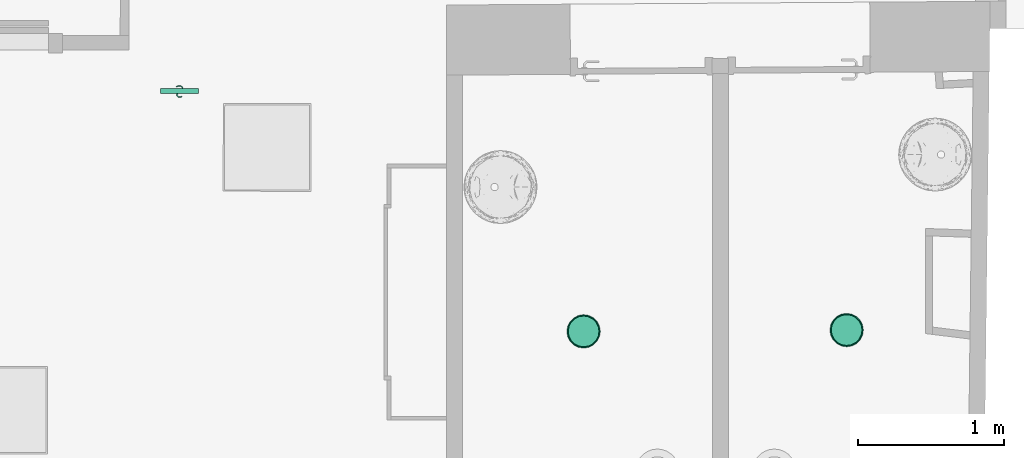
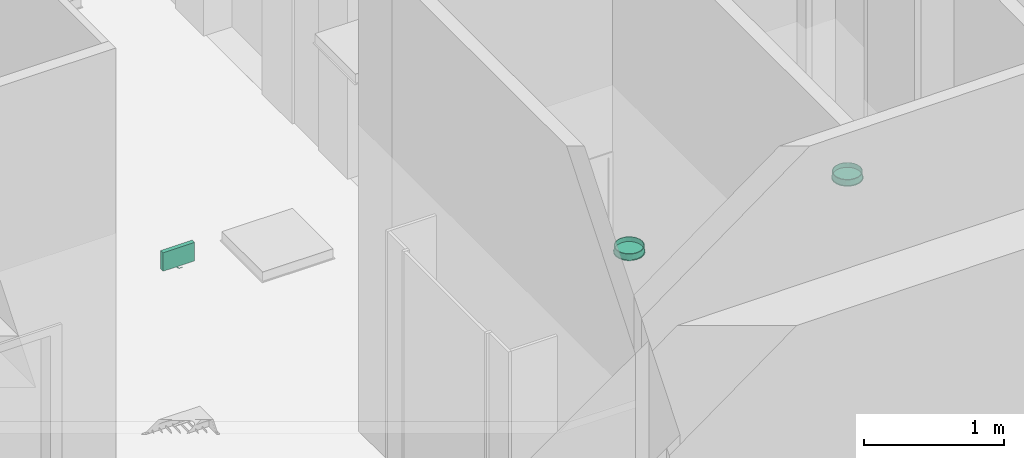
# One storey, part 73 of 128: 3 flow terminals.
"""IFC2X3 building model written with IfcOpenShell, lengths in metres."""

import ifcopenshell
import ifcopenshell.guid

model = None  # the IFC model being written
_history = None  # IfcOwnerHistory: only IFC2X3 demands one
_inside = {}  # id of a spatial element -> (the spatial element, [elements in it])
_under = {}  # id of a project, library or spatial element -> (it, [spatial elements below it])
_declared = {}  # id of a project -> (the project, [libraries it declares])
_typed = {}  # id of a type object -> (the type object, [elements of that type])
_made_of = {}  # id of a material, layer set ... -> (it, [elements and type objects made of it])


def new_model(schema):
    """Start an empty IFC model of exactly this schema.

    Asked for "IFC4X3", IfcOpenShell would pick the latest addendum, in which some entities
    have other attributes; the version numbers below select the first issue.
    IFC2X3 requires an IfcOwnerHistory on every rooted entity: one is made here for all.
    """
    global model, _history
    if schema == "IFC4X3":
        model = ifcopenshell.file(schema_version=(4, 3, 0, 0))
    else:
        model = ifcopenshell.file(schema=schema)
    _inside.clear()
    _under.clear()
    _declared.clear()
    _typed.clear()
    _made_of.clear()
    _history = None
    if model.schema == "IFC2X3":
        org = make("IfcOrganization", Name="unknown")
        user = make(
            "IfcPersonAndOrganization",
            ThePerson=make("IfcPerson", FamilyName="unknown"),
            TheOrganization=org,
        )
        app = make(
            "IfcApplication",
            ApplicationDeveloper=org,
            Version="unknown",
            ApplicationFullName="unknown",
            ApplicationIdentifier="unknown",
        )
        _history = make(
            "IfcOwnerHistory",
            OwningUser=user,
            OwningApplication=app,
            ChangeAction="ADDED",
            CreationDate=0,
        )
    return model


def make(cls, **values):
    """One entity of the class cls with the attributes given. An attribute that is None is left unset."""
    return model.create_entity(
        cls, **{name: value for name, value in values.items() if value is not None}
    )


def entity(cls, *values):
    """Any entity or typed value of the class cls, its attributes in the order of the schema. None: left unset."""
    e = model.create_entity(cls)
    for i, value in enumerate(values):
        if value is not None:
            e[i] = value
    return e


def rooted(cls, **values):
    """An entity with a GlobalId (a new one), such as an element, a storey or a relation."""
    return make(cls, GlobalId=ifcopenshell.guid.new(), OwnerHistory=_history, **values)


def si_unit(unit_type, name, prefix=None):
    """IfcSIUnit, for example si_unit("LENGTHUNIT", "METRE", prefix="MILLI")."""
    return make("IfcSIUnit", UnitType=unit_type, Prefix=prefix, Name=name)


def converted_unit(unit_type, name, factor, base, dimensions=None, offset=None):
    """IfcConversionBasedUnit, such as the inch: factor (a typed value) times the base unit."""
    return make(
        "IfcConversionBasedUnit"
        if offset is None
        else "IfcConversionBasedUnitWithOffset",
        ConversionOffset=offset,
        Dimensions=None
        if dimensions is None
        else entity("IfcDimensionalExponents", *dimensions),
        UnitType=unit_type,
        Name=name,
        ConversionFactor=make(
            "IfcMeasureWithUnit", ValueComponent=factor, UnitComponent=base
        ),
    )


def derived_unit(unit_type, elements):
    """IfcDerivedUnit: a product of units, each with its exponent."""
    return make(
        "IfcDerivedUnit",
        Elements=[
            make("IfcDerivedUnitElement", Unit=unit, Exponent=power)
            for unit, power in elements
        ],
        UnitType=unit_type,
    )


def assignment(units):
    """IfcUnitAssignment: the units of a project."""
    return None if units is None else make("IfcUnitAssignment", Units=units)


def point(xyz):
    """IfcCartesianPoint."""
    return None if xyz is None else make("IfcCartesianPoint", Coordinates=xyz)


def direction(xyz):
    """IfcDirection."""
    return None if xyz is None else make("IfcDirection", DirectionRatios=xyz)


def frame(location, z_axis=None, x_axis=None):
    """IfcAxis2Placement3D, a coordinate frame: its origin and axes. An axis left out is left unset."""
    return make(
        "IfcAxis2Placement3D",
        Location=point(location),
        Axis=direction(z_axis),
        RefDirection=direction(x_axis),
    )


def origin():
    """The frame at (0, 0, 0) with its axes left unset."""
    return frame((0.0, 0.0, 0.0))


def place(relative_to, where):
    """IfcLocalPlacement: puts the frame where relative to a parent placement (None: the world)."""
    return make(
        "IfcLocalPlacement", PlacementRelTo=relative_to, RelativePlacement=where
    )


def context(
    kind, dimensions, precision=None, world=None, true_north=None, identifier=None
):
    """IfcGeometricRepresentationContext, for example the 3D "Model" context."""
    return make(
        "IfcGeometricRepresentationContext",
        ContextIdentifier=identifier,
        ContextType=kind,
        CoordinateSpaceDimension=dimensions,
        Precision=precision,
        WorldCoordinateSystem=world,
        TrueNorth=true_north,
    )


def subcontext(parent, identifier, kind, view, scale=None):
    """IfcGeometricRepresentationSubContext, for example "Body" below "Model"."""
    return make(
        "IfcGeometricRepresentationSubContext",
        ContextIdentifier=identifier,
        ContextType=kind,
        ParentContext=parent,
        TargetScale=scale,
        TargetView=view,
    )


def project(units=None, contexts=None):
    """IfcProject with its units and contexts."""
    return rooted(
        "IfcProject",
        Name="project",
        RepresentationContexts=contexts,
        UnitsInContext=assignment(units),
    )


def spatial(cls, under=None, at=None, **own):
    """A site, building, storey or space (cls), placed at a placement, below another one or the project."""
    s = rooted(cls, ObjectPlacement=at, **own)
    if under is not None:
        _under.setdefault(under.id(), (under, []))[1].append(s)
    return s


def faces_of(points, faces, orient=None, outer=None):
    """IfcFace entities. A face is a list of loops; a loop is a list of indices into points, from 0.

    orient and outer hold one flag for each loop. By default every Orientation is true, the
    first loop of a face is its IfcFaceOuterBound and the others are IfcFaceBound.
    """
    made = []
    for i, loops in enumerate(faces):
        bounds = []
        for j, loop in enumerate(loops):
            is_outer = j == 0 if outer is None else outer[i][j]
            bounds.append(
                make(
                    "IfcFaceOuterBound" if is_outer else "IfcFaceBound",
                    Bound=make("IfcPolyLoop", Polygon=[points[k] for k in loop]),
                    Orientation=True if orient is None else orient[i][j],
                )
            )
        made.append(make("IfcFace", Bounds=bounds))
    return made


def face_set(faces, orient=None, outer=None):
    """The faces of one IfcConnectedFaceSet. surface_model builds it on its shared points."""
    return ("IfcConnectedFaceSet", faces, orient, outer)


def faceted_brep(points, faces, orient=None, outer=None, voids=None):
    """IfcFacetedBrep: a solid bounded by flat faces; with voids (closed shells), ...WithVoids."""
    shared = [point(p) for p in points]
    hull = make("IfcClosedShell", CfsFaces=faces_of(shared, faces, orient, outer))
    if voids is None:
        return make("IfcFacetedBrep", Outer=hull)
    return make(
        "IfcFacetedBrepWithVoids",
        Outer=hull,
        Voids=[
            make(cls, CfsFaces=faces_of(shared, fs, o, b)) for cls, fs, o, b in voids
        ],
    )


def surface_model(cls, points, shells):
    """IfcFaceBasedSurfaceModel or IfcShellBasedSurfaceModel (cls): surfaces that need not close."""
    shared = [point(p) for p in points]
    made = [make(c, CfsFaces=faces_of(shared, fs, o, b)) for c, fs, o, b in shells]
    if cls == "IfcFaceBasedSurfaceModel":
        return make(cls, FbsmFaces=made)
    return make(cls, SbsmBoundary=made)


def shape(context_of_items, identifier, shape_type, items):
    """IfcShapeRepresentation: the items that make up one representation, for example the "Body"."""
    return make(
        "IfcShapeRepresentation",
        ContextOfItems=context_of_items,
        RepresentationIdentifier=identifier,
        RepresentationType=shape_type,
        Items=items,
    )


def source(mapping_origin, context_of_items, identifier, shape_type, items):
    """IfcRepresentationMap: a shape defined once, which mapped items show again and again."""
    return make(
        "IfcRepresentationMap",
        MappingOrigin=mapping_origin,
        MappedRepresentation=shape(context_of_items, identifier, shape_type, items),
    )


def transform(
    local_origin,
    x_axis=None,
    y_axis=None,
    z_axis=None,
    scale=None,
    scale2=None,
    scale3=None,
    uniform=True,
):
    """IfcCartesianTransformationOperator3D, or its non-uniform kind. x_axis, y_axis, z_axis: its Axis1, 2, 3."""
    if uniform:
        return make(
            "IfcCartesianTransformationOperator3D",
            Axis1=direction(x_axis),
            Axis2=direction(y_axis),
            LocalOrigin=point(local_origin),
            Scale=scale,
            Axis3=direction(z_axis),
        )
    return make(
        "IfcCartesianTransformationOperator3DnonUniform",
        Axis1=direction(x_axis),
        Axis2=direction(y_axis),
        LocalOrigin=point(local_origin),
        Scale=scale,
        Axis3=direction(z_axis),
        Scale2=scale2,
        Scale3=scale3,
    )


def mapped(mapping_source, mapping_target):
    """IfcMappedItem: shows the shape of a source again, moved by a transform."""
    return make(
        "IfcMappedItem", MappingSource=mapping_source, MappingTarget=mapping_target
    )


def material(Name=None, Category=None):
    """IfcMaterial."""
    return make("IfcMaterial", Name=Name, Category=Category)


def made_of(thing, what):
    """Note that an element or type object is made of a material, layer set ...; save() writes the relation."""
    if what is not None:
        _made_of.setdefault(what.id(), (what, []))[1].append(thing)
    return thing


def type_object(cls, material=None, **own):
    """A type object (cls), such as IfcWallType, which elements share."""
    return made_of(rooted(cls, **own), material)


def type_shapes(of_type, sources):
    """Give a type object the sources (RepresentationMaps) that its elements show as mapped items."""
    of_type.RepresentationMaps = sources


def element(
    cls,
    number,
    at=None,
    inside=None,
    cuts=None,
    type_object=None,
    material=None,
    context=None,
    identifier="Body",
    shape_type=None,
    held_by="IfcProductDefinitionShape",
    body=None,
    shapes=None,
    **own,
):
    """One element of the class cls, such as IfcWall. Its Tag is "e" and its number.

    at: its placement. inside: the storey or other place that contains it. cuts: it is an
    opening in that element (IfcRelVoidsElement). A single representation is given by context,
    identifier, shape_type and body (its items); several are given by shapes. held_by: the class
    of the entity that holds the representations. save() writes the other relations.
    """
    e = rooted(cls, Tag="e%d" % number, ObjectPlacement=at, **own)
    if body is not None:
        shapes = [shape(context, identifier, shape_type, body)]
    if shapes is not None:
        e.Representation = make(held_by, Representations=shapes)
    if inside is not None:
        _inside.setdefault(inside.id(), (inside, []))[1].append(e)
    if cuts is not None:
        rooted(
            "IfcRelVoidsElement", RelatingBuildingElement=cuts, RelatedOpeningElement=e
        )
    if type_object is not None:
        _typed.setdefault(type_object.id(), (type_object, []))[1].append(e)
    return made_of(e, material)


def aggregate(whole, parts):
    """IfcRelAggregates: a whole, such as a stair, and the parts it consists of."""
    return rooted("IfcRelAggregates", RelatingObject=whole, RelatedObjects=parts)


def save(model, path):
    """Write the relations noted so far, then the file.

    IfcRelAggregates (storeys below a building ...), IfcRelContainedInSpatialStructure (elements
    in a storey), IfcRelDefinesByType, IfcRelAssociatesMaterial and IfcRelDeclares: one each for
    every whole, place, type object, material and project.
    """
    for whole, parts in _under.values():
        aggregate(whole, parts)
    for where, things in _inside.values():
        rooted(
            "IfcRelContainedInSpatialStructure",
            RelatedElements=things,
            RelatingStructure=where,
        )
    for kind, things in _typed.values():
        rooted("IfcRelDefinesByType", RelatedObjects=things, RelatingType=kind)
    for what, things in _made_of.values():
        rooted("IfcRelAssociatesMaterial", RelatedObjects=things, RelatingMaterial=what)
    for by, libraries in _declared.values():
        rooted("IfcRelDeclares", RelatingContext=by, RelatedDefinitions=libraries)
    model.write(path)


model = new_model("IFC2X3")

# Units and contexts
model_context = context("Model", 3, precision=1e-05, world=origin(), true_north=direction((6.123031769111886e-17, 1.0)))
body_context = subcontext(model_context, "Body", "Model", "MODEL_VIEW")
ifc_project = project(units=[si_unit("LENGTHUNIT", "METRE"), si_unit("AREAUNIT", "SQUARE_METRE"), converted_unit("PLANEANGLEUNIT", "DEGREE", entity("IfcPlaneAngleMeasure", 0.017453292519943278), si_unit("PLANEANGLEUNIT", "RADIAN"), dimensions=[0, 0, 0, 0, 0, 0, 0]), derived_unit("THERMALTRANSMITTANCEUNIT", [(si_unit("MASSUNIT", "GRAM", prefix="KILO"), 1), (si_unit("THERMODYNAMICTEMPERATUREUNIT", "KELVIN"), -1), (si_unit("TIMEUNIT", "SECOND"), -3)])], contexts=[model_context])

# Site, building, storey
site_placement = place(None, origin())
site = spatial("IfcSite", under=ifc_project, at=site_placement, Name="Default", CompositionType="ELEMENT")
building_placement = place(site_placement, origin())
building = spatial("IfcBuilding", under=site, at=building_placement, CompositionType="ELEMENT")
storey_placement = place(building_placement, origin())
storey = spatial("IfcBuildingStorey", under=building, at=storey_placement, Name="00_RDC CAF", CompositionType="ELEMENT", Elevation=2.4982504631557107e-13)

# Flow terminals
ifc_material = material(Name="ARC - Eq Elec - Blanc")
light_fixture_type_1 = type_object("IfcLightFixtureType", Name="Eq_Elec_Luminaire_Circulaire_LED_Encastre:Eq_Elec_Luminaire_Circulaire_LED_Encastre_D220x50mm", PredefinedType="NOTDEFINED", material=ifc_material)
shared_shape_1 = source(origin(), body_context, "Body", "Brep", [
    faceted_brep([(0.0, 0.10499999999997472, -0.010000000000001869), (0.02717599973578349, 0.10142221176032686, -0.010000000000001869), (0.05250000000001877, 0.09093266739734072, -0.010000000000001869), (0.07424621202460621, 0.07424621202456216, -0.010000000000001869), (0.09093266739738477, 0.05249999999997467, -0.010000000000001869), (0.10142221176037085, 0.027175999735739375, -0.010000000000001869), (0.10500000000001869, 0.0, -0.010000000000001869), (0.10142221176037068, -0.02717599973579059, -0.010000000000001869), (0.09093266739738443, -0.05250000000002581, -0.010000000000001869), (0.07424621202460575, -0.07424621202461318, -0.010000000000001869), (0.0525000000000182, -0.09093266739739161, -0.010000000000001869), (0.02717599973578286, -0.10142221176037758, -0.010000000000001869), (0.0, -0.10500000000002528, -0.010000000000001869), (-0.027175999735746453, -0.10142221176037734, -0.010000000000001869), (-0.052499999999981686, -0.09093266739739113, -0.010000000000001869), (-0.07424621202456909, -0.0742462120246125, -0.010000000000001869), (-0.09093266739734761, -0.052500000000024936, -0.010000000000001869), (-0.10142221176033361, -0.027175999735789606, -0.010000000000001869), (-0.10499999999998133, 0.0, -0.010000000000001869), (-0.1014222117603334, 0.027175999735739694, -0.010000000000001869), (-0.09093266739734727, 0.05249999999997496, -0.010000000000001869), (-0.07424621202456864, 0.07424621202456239, -0.010000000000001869), (-0.052499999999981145, 0.09093266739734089, -0.010000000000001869), (-0.027175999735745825, 0.10142221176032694, -0.010000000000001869), (0.02717599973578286, -0.10142221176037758, 0.0), (0.0525000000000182, -0.09093266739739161, 0.0), (0.07424621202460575, -0.07424621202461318, 0.0), (0.09093266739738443, -0.05250000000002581, 0.0), (0.10142221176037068, -0.02717599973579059, 0.0), (0.10500000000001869, 0.0, 0.0), (0.10142221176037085, 0.027175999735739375, 0.0), (0.09093266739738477, 0.05249999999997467, 0.0), (0.07424621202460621, 0.07424621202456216, 0.0), (0.05250000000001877, 0.09093266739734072, 0.0), (0.02717599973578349, 0.10142221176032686, 0.0), (0.0, 0.10499999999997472, 0.0), (-0.027175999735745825, 0.10142221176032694, 0.0), (-0.052499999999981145, 0.09093266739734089, 0.0), (-0.07424621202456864, 0.07424621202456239, 0.0), (-0.09093266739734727, 0.05249999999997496, 0.0), (-0.1014222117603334, 0.027175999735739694, 0.0), (-0.10499999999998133, 0.0, 0.0), (-0.10142221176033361, -0.027175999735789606, 0.0), (-0.09093266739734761, -0.052500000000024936, 0.0), (-0.07424621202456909, -0.0742462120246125, 0.0), (-0.052499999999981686, -0.09093266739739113, 0.0), (-0.027175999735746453, -0.10142221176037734, 0.0), (0.0, -0.10500000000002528, 0.0)], [[[0, 1, 2, 3, 4, 5, 6, 7, 8, 9, 10, 11, 12, 13, 14, 15, 16, 17, 18, 19, 20, 21, 22, 23]], [[24, 25, 26, 27, 28, 29, 30, 31, 32, 33, 34, 35, 36, 37, 38, 39, 40, 41, 42, 43, 44, 45, 46, 47]], [[17, 42, 41, 18]], [[16, 43, 42, 17]], [[45, 44, 15, 14]], [[16, 15, 44, 43]], [[46, 45, 14, 13]], [[47, 46, 13, 12]], [[11, 24, 47, 12]], [[10, 25, 24, 11]], [[27, 26, 9, 8]], [[10, 9, 26, 25]], [[28, 27, 8, 7]], [[29, 28, 7, 6]], [[5, 30, 29, 6]], [[4, 31, 30, 5]], [[33, 32, 3, 2]], [[4, 3, 32, 31]], [[34, 33, 2, 1]], [[35, 34, 1, 0]], [[23, 36, 35, 0]], [[22, 37, 36, 23]], [[19, 18, 41, 40]], [[21, 38, 37, 22]], [[39, 20, 19, 40]], [[39, 38, 21, 20]]]),
    faceted_brep([(-0.10999999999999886, 0.0, 0.0), (-0.10999999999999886, 0.0, -0.05000000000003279), (-0.10461621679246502, -0.033991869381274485, -0.05000000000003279), (-0.10461621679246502, -0.033991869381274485, 0.0), (-0.08899186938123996, -0.06465637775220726, 0.0), (-0.08899186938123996, -0.06465637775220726, -0.05000000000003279), (-0.06465637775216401, -0.08899186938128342, -0.05000000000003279), (-0.06465637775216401, -0.08899186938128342, 0.0), (-0.03399186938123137, -0.10461621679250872, -0.05000000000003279), (-0.03399186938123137, -0.10461621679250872, 0.0), (0.0, -0.11000000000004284, -0.05000000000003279), (0.0, -0.11000000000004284, 0.0), (0.033991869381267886, -0.10461621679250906, -0.05000000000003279), (0.06465637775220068, -0.08899186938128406, -0.05000000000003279), (0.06465637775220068, -0.08899186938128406, 0.0), (0.033991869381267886, -0.10461621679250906, 0.0), (0.10461621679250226, -0.03399186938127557, 0.0), (0.08899186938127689, -0.06465637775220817, 0.0), (0.08899186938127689, -0.06465637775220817, -0.05000000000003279), (0.10461621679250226, -0.03399186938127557, -0.05000000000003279), (0.11000000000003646, 0.0, 0.0), (0.11000000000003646, 0.0, -0.05000000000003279), (-0.1093714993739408, -0.03553695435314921, 0.0), (-0.1093714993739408, -0.03553695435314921, 0.004999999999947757), (-0.11135404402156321, -0.023019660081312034, 0.004999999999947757), (-0.11499999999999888, 0.0, 0.004999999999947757), (-0.11499999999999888, 0.0, 0.0), (-0.11218574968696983, -0.017768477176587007, 0.0), (-0.09303695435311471, -0.0675953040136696, 0.0), (-0.08031612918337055, -0.08031612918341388, 0.0), (-0.06759530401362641, -0.09303695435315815, 0.0), (-0.06759530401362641, -0.09303695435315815, 0.004999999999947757), (-0.08031612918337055, -0.08031612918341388, 0.004999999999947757), (-0.09303695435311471, -0.0675953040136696, 0.004999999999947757), (0.10120422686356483, -0.05156612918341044, 0.004999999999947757), (0.09303695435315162, -0.06759530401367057, 0.004999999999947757), (0.09303695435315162, -0.06759530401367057, 0.0), (0.10120422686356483, -0.05156612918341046, 0.0), (0.10937149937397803, -0.035536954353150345, 0.0), (0.10937149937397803, -0.035536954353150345, 0.004999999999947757), (0.08031612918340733, -0.0803161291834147, 0.004999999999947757), (0.06759530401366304, -0.09303695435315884, 0.004999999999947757), (0.06759530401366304, -0.09303695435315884, 0.0), (0.08031612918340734, -0.08031612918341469, 0.0), (-0.10120422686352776, -0.0515661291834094, 0.0), (-0.10120422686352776, -0.0515661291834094, 0.004999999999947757), (-0.051566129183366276, -0.10120422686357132, 0.0), (-0.03553695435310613, -0.1093714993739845, 0.0), (-0.03553695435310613, -0.1093714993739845, 0.004999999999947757), (-0.051566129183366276, -0.10120422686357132, 0.004999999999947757), (0.11500000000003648, 0.0, 0.004999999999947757), (0.11135404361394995, -0.02301966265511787, 0.004999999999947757), (0.11218574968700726, -0.01776847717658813, 0.0), (0.11500000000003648, 0.0, 0.0), (0.017768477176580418, -0.11218574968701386, 0.0), (0.0355369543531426, -0.10937149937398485, 0.0), (0.0355369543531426, -0.10937149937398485, 0.004999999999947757), (0.017768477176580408, -0.11218574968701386, 0.004999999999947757), (0.0, -0.11500000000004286, 0.004999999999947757), (0.0, -0.11500000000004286, 0.0), (-0.017768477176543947, -0.11218574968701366, 0.004999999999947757), (-0.017768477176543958, -0.11218574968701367, 0.0), (0.051566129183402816, -0.10120422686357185, 0.0), (0.051566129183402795, -0.10120422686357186, 0.004999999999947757), (-0.09986093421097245, -0.0324467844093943, -0.05000000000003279), (-0.1049999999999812, 0.0, -0.05000000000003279), (-0.1049999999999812, 0.0, 0.004999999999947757), (-0.09986093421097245, -0.0324467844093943, 0.004999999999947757), (-0.061717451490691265, -0.08494678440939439, -0.05000000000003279), (-0.08494678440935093, -0.06171745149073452, -0.05000000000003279), (-0.08494678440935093, -0.06171745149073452, 0.004999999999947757), (-0.061717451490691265, -0.08494678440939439, 0.004999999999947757), (-0.03244678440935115, -0.09986093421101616, 0.004999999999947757), (-0.03244678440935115, -0.09986093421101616, -0.05000000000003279), (0.0, -0.10500000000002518, 0.004999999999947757), (0.0, -0.10500000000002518, -0.05000000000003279), (0.06171745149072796, -0.08494678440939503, -0.05000000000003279), (0.03244678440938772, -0.0998609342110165, -0.05000000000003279), (0.03244678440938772, -0.0998609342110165, 0.004999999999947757), (0.06171745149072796, -0.08494678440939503, 0.004999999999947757), (0.09986093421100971, -0.03244678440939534, -0.05000000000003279), (0.0849467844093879, -0.06171745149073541, -0.05000000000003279), (0.0849467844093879, -0.06171745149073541, 0.004999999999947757), (0.09986093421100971, -0.03244678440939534, 0.004999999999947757), (0.1050000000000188, 0.0, -0.05000000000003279), (0.1050000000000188, 0.0, 0.004999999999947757), (0.10461621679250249, 0.03399186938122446, -0.05000000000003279), (0.10461621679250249, 0.03399186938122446, 0.0), (0.08899186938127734, 0.06465637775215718, 0.0), (0.08899186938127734, 0.06465637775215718, -0.05000000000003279), (0.0646563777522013, 0.08899186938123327, -0.05000000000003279), (0.0646563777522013, 0.08899186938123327, 0.0), (0.03399186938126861, 0.10461621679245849, -0.05000000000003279), (0.03399186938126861, 0.10461621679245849, 0.0), (0.0, 0.10999999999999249, -0.05000000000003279), (0.0, 0.10999999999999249, 0.0), (-0.033991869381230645, 0.1046162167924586, -0.05000000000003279), (-0.0646563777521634, 0.0889918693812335, -0.05000000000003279), (-0.0646563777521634, 0.0889918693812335, 0.0), (-0.033991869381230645, 0.1046162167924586, 0.0), (-0.10461621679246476, 0.03399186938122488, 0.0), (-0.0889918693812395, 0.06465637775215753, 0.0), (-0.0889918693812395, 0.06465637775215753, -0.05000000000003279), (-0.10461621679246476, 0.03399186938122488, -0.05000000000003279), (0.09986093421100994, 0.03244678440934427, -0.05000000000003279), (0.08494678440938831, 0.061717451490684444, -0.05000000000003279), (0.06171745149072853, 0.08494678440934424, -0.05000000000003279), (0.03244678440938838, 0.0998609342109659, -0.05000000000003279), (0.0, 0.1049999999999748, -0.05000000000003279), (-0.032446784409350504, 0.09986093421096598, -0.05000000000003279), (-0.061717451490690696, 0.0849467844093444, -0.05000000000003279), (-0.0849467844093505, 0.06171745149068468, -0.05000000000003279), (-0.0998609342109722, 0.03244678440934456, -0.05000000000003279), (0.10937149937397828, 0.035536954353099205, 0.0), (0.10937149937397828, 0.035536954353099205, 0.004999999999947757), (0.11135404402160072, 0.023019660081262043, 0.004999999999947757), (0.11218574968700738, 0.017768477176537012, 0.0), (0.0930369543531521, 0.06759530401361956, 0.0), (0.0803161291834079, 0.0803161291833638, 0.0), (0.06759530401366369, 0.093036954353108, 0.0), (0.06759530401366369, 0.093036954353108, 0.004999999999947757), (0.0803161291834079, 0.0803161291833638, 0.004999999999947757), (0.0930369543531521, 0.06759530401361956, 0.004999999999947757), (-0.1012042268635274, 0.05156612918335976, 0.004999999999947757), (-0.09303695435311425, 0.06759530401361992, 0.004999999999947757), (-0.09303695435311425, 0.06759530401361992, 0.0), (-0.1012042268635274, 0.05156612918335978, 0.0), (-0.10937149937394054, 0.03553695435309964, 0.0), (-0.10937149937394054, 0.03553695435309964, 0.004999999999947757), (-0.08031612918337, 0.0803161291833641, 0.004999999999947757), (-0.06759530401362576, 0.09303695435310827, 0.004999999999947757), (-0.06759530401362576, 0.09303695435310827, 0.0), (-0.08031612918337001, 0.08031612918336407, 0.0), (0.1012042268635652, 0.05156612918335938, 0.0), (0.1012042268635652, 0.05156612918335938, 0.004999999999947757), (0.051566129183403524, 0.10120422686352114, 0.0), (0.03553695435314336, 0.10937149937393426, 0.0), (0.03553695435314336, 0.10937149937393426, 0.004999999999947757), (0.051566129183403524, 0.10120422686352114, 0.004999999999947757), (-0.11135404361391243, 0.023019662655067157, 0.004999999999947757), (-0.11218574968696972, 0.017768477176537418, 0.0), (-0.0177684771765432, 0.11218574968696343, 0.0), (-0.035536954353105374, 0.1093714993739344, 0.0), (-0.035536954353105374, 0.1093714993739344, 0.004999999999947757), (-0.017768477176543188, 0.11218574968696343, 0.004999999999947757), (0.0, 0.1149999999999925, 0.004999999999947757), (0.0, 0.1149999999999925, 0.0), (0.017768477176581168, 0.11218574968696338, 0.004999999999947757), (0.017768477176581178, 0.11218574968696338, 0.0), (-0.05156612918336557, 0.10120422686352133, 0.0), (-0.05156612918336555, 0.10120422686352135, 0.004999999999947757), (0.09986093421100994, 0.03244678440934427, 0.004999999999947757), (0.08494678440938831, 0.061717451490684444, 0.004999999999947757), (0.06171745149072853, 0.08494678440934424, 0.004999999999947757), (0.03244678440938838, 0.0998609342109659, 0.004999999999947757), (0.0, 0.1049999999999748, 0.004999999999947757), (-0.032446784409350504, 0.09986093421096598, 0.004999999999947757), (-0.061717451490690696, 0.0849467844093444, 0.004999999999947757), (-0.0849467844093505, 0.06171745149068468, 0.004999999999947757), (-0.0998609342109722, 0.03244678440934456, 0.004999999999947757)], [[[0, 1, 2, 3]], [[4, 5, 6, 7]], [[2, 5, 4, 3]], [[6, 8, 9, 7]], [[9, 8, 10, 11]], [[12, 13, 14, 15]], [[16, 17, 18, 19]], [[18, 17, 14, 13]], [[20, 16, 19, 21]], [[15, 11, 10, 12]], [[22, 23, 24, 25, 26, 27]], [[28, 29, 30, 31, 32, 33]], [[34, 35, 36, 37, 38, 39]], [[40, 41, 42, 43, 36, 35]], [[22, 44, 28, 33, 45, 23]], [[30, 46, 47, 48, 49, 31]], [[50, 51, 39, 38, 52, 53]], [[54, 55, 56, 57, 58, 59]], [[60, 48, 47, 61, 59, 58]], [[55, 62, 42, 41, 63, 56]], [[64, 65, 66, 67]], [[68, 69, 70, 71]], [[67, 70, 69, 64]], [[71, 72, 73, 68]], [[74, 75, 73, 72]], [[76, 77, 78, 79]], [[80, 81, 82, 83]], [[82, 81, 76, 79]], [[84, 80, 83, 85]], [[78, 77, 75, 74]], [[20, 21, 86, 87]], [[88, 89, 90, 91]], [[86, 89, 88, 87]], [[90, 92, 93, 91]], [[93, 92, 94, 95]], [[96, 97, 98, 99]], [[100, 101, 102, 103]], [[102, 101, 98, 97]], [[0, 100, 103, 1]], [[99, 95, 94, 96]], [[64, 69, 5]], [[5, 2, 64]], [[64, 2, 65]], [[6, 5, 69]], [[69, 68, 6]], [[68, 73, 6]], [[8, 6, 73]], [[73, 75, 8]], [[10, 8, 75]], [[10, 75, 77]], [[77, 12, 10]], [[77, 76, 12]], [[13, 12, 76]], [[81, 13, 76]], [[13, 81, 18]], [[80, 18, 81]], [[18, 80, 19]], [[84, 19, 80]], [[21, 19, 84]], [[104, 21, 84]], [[86, 21, 104]], [[104, 105, 86]], [[89, 86, 105]], [[106, 89, 105]], [[89, 106, 90]], [[92, 90, 106]], [[106, 107, 92]], [[92, 107, 94]], [[107, 108, 94]], [[94, 108, 96]], [[108, 109, 96]], [[97, 96, 109]], [[109, 110, 97]], [[102, 97, 110]], [[110, 111, 102]], [[102, 111, 103]], [[112, 103, 111]], [[103, 112, 1]], [[112, 65, 1]], [[1, 65, 2]], [[113, 114, 115, 50, 53, 116]], [[117, 118, 119, 120, 121, 122]], [[123, 124, 125, 126, 127, 128]], [[129, 130, 131, 132, 125, 124]], [[113, 133, 117, 122, 134, 114]], [[119, 135, 136, 137, 138, 120]], [[25, 139, 128, 127, 140, 26]], [[141, 142, 143, 144, 145, 146]], [[147, 137, 136, 148, 146, 145]], [[142, 149, 131, 130, 150, 143]], [[33, 70, 67]], [[70, 33, 32]], [[67, 45, 33]], [[70, 32, 31]], [[31, 71, 70]], [[31, 72, 71]], [[72, 31, 49]], [[72, 49, 48]], [[48, 74, 72]], [[74, 48, 60]], [[74, 60, 58]], [[78, 74, 58]], [[78, 58, 57]], [[78, 57, 56]], [[56, 79, 78]], [[79, 56, 63]], [[79, 63, 41]], [[79, 41, 82]], [[82, 41, 40]], [[82, 40, 35]], [[82, 35, 83]], [[83, 35, 34]], [[83, 34, 39]], [[83, 39, 85]], [[85, 39, 51]], [[85, 51, 50]], [[85, 50, 151]], [[151, 50, 115]], [[151, 115, 114]], [[114, 152, 151]], [[152, 114, 134]], [[152, 134, 122]], [[152, 122, 153]], [[153, 122, 121]], [[153, 121, 120]], [[153, 120, 138]], [[153, 138, 137]], [[137, 154, 153]], [[154, 137, 147]], [[154, 147, 145]], [[145, 155, 154]], [[155, 145, 144]], [[155, 144, 143]], [[143, 156, 155]], [[156, 143, 150]], [[156, 150, 130]], [[130, 157, 156]], [[157, 130, 129]], [[157, 129, 124]], [[124, 158, 157]], [[158, 124, 123]], [[158, 123, 128]], [[158, 128, 159]], [[159, 128, 139]], [[159, 139, 25]], [[25, 66, 159]], [[66, 25, 24]], [[66, 24, 23]], [[23, 67, 66]], [[67, 23, 45]], [[104, 84, 85, 151]], [[106, 105, 152, 153]], [[151, 152, 105, 104]], [[153, 154, 107, 106]], [[155, 108, 107, 154]], [[110, 109, 156, 157]], [[112, 111, 158, 159]], [[158, 111, 110, 157]], [[65, 112, 159, 66]], [[156, 109, 108, 155]], [[3, 4, 28]], [[3, 28, 44]], [[3, 44, 22]], [[3, 22, 0]], [[4, 29, 28]], [[4, 30, 29]], [[4, 7, 30]], [[7, 9, 30]], [[9, 46, 30]], [[9, 47, 46]], [[9, 11, 47]], [[11, 61, 47]], [[11, 59, 61]], [[59, 11, 15]], [[15, 54, 59]], [[15, 55, 54]], [[15, 14, 55]], [[14, 62, 55]], [[14, 42, 62]], [[17, 42, 14]], [[17, 43, 42]], [[17, 36, 43]], [[16, 36, 17]], [[16, 37, 36]], [[16, 38, 37]], [[20, 38, 16]], [[20, 52, 38]], [[20, 53, 52]], [[87, 53, 20]], [[87, 116, 53]], [[87, 113, 116]], [[87, 88, 113]], [[88, 133, 113]], [[88, 117, 133]], [[91, 117, 88]], [[91, 118, 117]], [[91, 119, 118]], [[91, 135, 119]], [[91, 136, 135]], [[91, 93, 136]], [[93, 148, 136]], [[93, 146, 148]], [[93, 95, 146]], [[95, 141, 146]], [[95, 142, 141]], [[95, 99, 142]], [[99, 149, 142]], [[99, 131, 149]], [[99, 98, 131]], [[98, 132, 131]], [[98, 125, 132]], [[98, 101, 125]], [[101, 126, 125]], [[101, 127, 126]], [[100, 127, 101]], [[100, 0, 26]], [[100, 26, 140]], [[100, 140, 127]], [[0, 22, 27]], [[0, 27, 26]]]),
])
type_shapes(light_fixture_type_1, [shared_shape_1])
for number, where, z_axis, x_axis in (
    (1, (27.767233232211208, 128.14248300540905, 2.589999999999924), (0.0, 0.0, -1.0), (1.0, 0.0, 0.0)),
    (2, (29.56723323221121, 128.151483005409, 2.5999999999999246), (0.0, 0.0, -1.0), (1.0, 0.0, 0.0)),
):
    element("IfcFlowTerminal", number, at=place(storey_placement, frame(where, z_axis=z_axis, x_axis=x_axis)), inside=storey, type_object=light_fixture_type_1, material=ifc_material, Name="Eq_Elec_Luminaire_Circulaire_LED_Encastre:Eq_Elec_Luminaire_Circulaire_LED_Encastre_D220x50mm", ObjectType="Eq_Elec_Luminaire_Circulaire_LED_Encastre:Eq_Elec_Luminaire_Circulaire_LED_Encastre_D220x50mm", context=body_context, shape_type="MappedRepresentation", body=[
        mapped(shared_shape_1, transform((0.0, 0.0, 0.0), scale=1.0)),
    ])
light_fixture_type_2 = type_object("IfcLightFixtureType", Name="Eq_Elec_Eclairage_secours_BAES:Eq_Elec_Eclairage secours BAES_260x160x35mm", PredefinedType="NOTDEFINED", material=ifc_material)
shared_shape_2 = source(origin(), body_context, "Body", "SurfaceModel", [
    surface_model("IfcFaceBasedSurfaceModel", [(0.003932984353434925, 0.017499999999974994, 0.09396213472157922), (0.0023406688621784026, 0.017499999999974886, 0.0857472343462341), (-0.0018693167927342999, 0.017499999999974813, 0.07955891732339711), (-0.007816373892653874, 0.017499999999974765, 0.07496291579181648), (-0.014595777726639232, 0.017499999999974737, 0.07133195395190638), (-0.02137518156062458, 0.01749999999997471, 0.06795431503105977), (-0.027322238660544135, 0.017499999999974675, 0.06416653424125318), (-0.03153222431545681, 0.01749999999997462, 0.0593292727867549), (-0.033124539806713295, 0.017499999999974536, 0.052754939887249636), (-0.03224394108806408, 0.017499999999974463, 0.04756785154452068), (-0.02961420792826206, 0.017499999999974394, 0.04328548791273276), (-0.025199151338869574, 0.01749999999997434, 0.040402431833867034), (-0.018962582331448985, 0.017499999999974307, 0.039340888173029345), (-0.012496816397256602, 0.0174999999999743, 0.04029386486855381), (-0.007599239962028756, 0.017499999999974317, 0.04242901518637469), (-0.00418541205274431, 0.017499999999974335, 0.04456416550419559), (-0.0019537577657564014, 0.017499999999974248, 0.03870154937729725), (-0.004318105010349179, 0.01749999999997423, 0.03700066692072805), (-0.008383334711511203, 0.017499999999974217, 0.035094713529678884), (-0.013220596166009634, 0.017499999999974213, 0.033707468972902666), (-0.01828705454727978, 0.01749999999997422, 0.03316463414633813), (-0.02743080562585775, 0.017499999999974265, 0.03451568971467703), (-0.03458416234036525, 0.01749999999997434, 0.03842410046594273), (-0.039204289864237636, 0.017499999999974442, 0.044648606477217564), (-0.0408448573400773, 0.01749999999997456, 0.05292382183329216), (-0.039252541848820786, 0.01749999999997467, 0.06123522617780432), (-0.03504255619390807, 0.017499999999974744, 0.06743560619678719), (-0.029107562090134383, 0.01749999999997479, 0.07205573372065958), (-0.022316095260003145, 0.01749999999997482, 0.07572288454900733), (-0.01552462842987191, 0.017499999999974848, 0.07908846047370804), (-0.009589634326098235, 0.01749999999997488, 0.08284005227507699), (-0.0053796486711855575, 0.017499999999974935, 0.08765318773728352), (-0.0037873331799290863, 0.01749999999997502, 0.09420339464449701), (-0.00507807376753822, 0.01749999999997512, 0.10105517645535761), (-0.008684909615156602, 0.0174999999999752, 0.10612163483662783), (-0.014197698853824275, 0.017499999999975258, 0.10927007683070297), (-0.02123042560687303, 0.017499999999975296, 0.11036780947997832), (-0.029481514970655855, 0.017499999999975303, 0.10914944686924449), (-0.03556126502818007, 0.017499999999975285, 0.10650765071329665), (-0.03969887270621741, 0.01749999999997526, 0.10386585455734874), (-0.043932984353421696, 0.017499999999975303, 0.10585624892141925), (-0.043619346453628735, 0.01749999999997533, 0.10796727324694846), (-0.04261811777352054, 0.01749999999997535, 0.10961990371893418), (-0.04009695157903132, 0.01749999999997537, 0.11156204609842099), (-0.03558539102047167, 0.017499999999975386, 0.11382988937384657), (-0.029481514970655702, 0.017499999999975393, 0.11574790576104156), (-0.022171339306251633, 0.017499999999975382, 0.11654406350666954), (-0.01170065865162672, 0.01749999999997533, 0.11499999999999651), (-0.003413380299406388, 0.017499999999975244, 0.11053669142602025), (0.002002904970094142, 0.01749999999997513, 0.10343158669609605), (0.023932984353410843, -0.014873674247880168, 0.15999999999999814), (0.022340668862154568, -0.006658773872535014, 0.15999999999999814), (0.01813068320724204, -0.000470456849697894, 0.15999999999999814), (0.012183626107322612, 0.004125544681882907, 0.15999999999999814), (0.0054042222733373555, 0.007756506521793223, 0.15999999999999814), (-0.0013751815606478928, 0.011134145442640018, 0.15999999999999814), (-0.007322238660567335, 0.01492192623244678, 0.15999999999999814), (-0.01153222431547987, 0.019759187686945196, 0.15999999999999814), (-0.013124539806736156, 0.0263335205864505, 0.15999999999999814), (-0.012243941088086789, 0.03152060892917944, 0.15999999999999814), (-0.009614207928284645, 0.035802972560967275, 0.15999999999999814), (-0.005199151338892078, 0.03868602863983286, 0.15999999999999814), (0.0010374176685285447, 0.03974757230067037, 0.15999999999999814), (0.007503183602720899, 0.03879459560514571, 0.15999999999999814), (0.012400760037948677, 0.036659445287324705, 0.15999999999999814), (0.015814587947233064, 0.03452429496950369, 0.15999999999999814), (0.018046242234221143, 0.04038691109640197, 0.15999999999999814), (0.015681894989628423, 0.04208779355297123, 0.15999999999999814), (0.011616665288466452, 0.04399374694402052, 0.15999999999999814), (0.006779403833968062, 0.04538099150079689, 0.15999999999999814), (0.0017129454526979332, 0.04592382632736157, 0.15999999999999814), (-0.00743080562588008, 0.04457277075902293, 0.15999999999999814), (-0.014584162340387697, 0.04066436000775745, 0.15999999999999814), (-0.019204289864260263, 0.03443985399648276, 0.15999999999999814), (-0.020844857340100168, 0.026164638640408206, 0.15999999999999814), (-0.019252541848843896, 0.017853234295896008, 0.15999999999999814), (-0.015042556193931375, 0.011652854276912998, 0.15999999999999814), (-0.009107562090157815, 0.007032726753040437, 0.15999999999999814), (-0.002316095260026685, 0.0033655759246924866, 0.15999999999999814), (0.00447537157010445, 0.0, 0.15999999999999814), (0.010410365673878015, -0.0037515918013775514, 0.15999999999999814), (0.014620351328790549, -0.0085647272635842, 0.15999999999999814), (0.016212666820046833, -0.015114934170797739, 0.15999999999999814), (0.014921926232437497, -0.021966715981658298, 0.15999999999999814), (0.011315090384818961, -0.02703317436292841, 0.15999999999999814), (0.005802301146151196, -0.030181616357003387, 0.15999999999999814), (-0.0012304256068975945, -0.03127934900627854, 0.15999999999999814), (-0.009481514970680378, -0.030060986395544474, 0.15999999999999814), (-0.015561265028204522, -0.027419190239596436, 0.15999999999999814), (-0.019698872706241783, -0.02477739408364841, 0.15999999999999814), (-0.023932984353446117, -0.02676778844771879, 0.15999999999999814), (-0.02361934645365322, -0.028878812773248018, 0.15999999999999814), (-0.022618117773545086, -0.030531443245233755, 0.15999999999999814), (-0.02009695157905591, -0.032473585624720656, 0.15999999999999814), (-0.015585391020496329, -0.034741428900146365, 0.15999999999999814), (-0.009481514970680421, -0.03665944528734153, 0.15999999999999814), (-0.0021713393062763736, -0.03745560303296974, 0.15999999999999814), (0.008299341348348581, -0.035911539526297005, 0.15999999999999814), (0.01658661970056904, -0.03144823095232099, 0.15999999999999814), (0.02200290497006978, -0.024343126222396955, 0.15999999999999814), (0.13000000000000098, 0.017499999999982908, 0.15999999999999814), (0.13000000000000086, -0.01750000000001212, 0.15999999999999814), (-0.1299999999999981, -0.017500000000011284, 0.15999999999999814), (-0.129999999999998, 0.017499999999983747, 0.15999999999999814), (0.13000000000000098, 0.017499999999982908, 0.0), (0.13000000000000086, -0.017500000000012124, 0.0), (-0.1299999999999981, -0.017500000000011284, 0.0), (-0.129999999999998, 0.017499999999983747, 0.0)], [face_set([[[0, 1, 2, 3, 4, 5, 6, 7, 8, 9, 10, 11, 12, 13, 14, 15, 16, 17, 18, 19, 20, 21, 22, 23, 24, 25, 26, 27, 28, 29, 30, 31, 32, 33, 34, 35, 36, 37, 38, 39, 40, 41, 42, 43, 44, 45, 46, 47, 48, 49]]]), face_set([[[50, 51, 52, 53, 54, 55, 56, 57, 58, 59, 60, 61, 62, 63, 64, 65, 66, 67, 68, 69, 70, 71, 72, 73, 74, 75, 76, 77, 78, 79, 80, 81, 82, 83, 84, 85, 86, 87, 88, 89, 90, 91, 92, 93, 94, 95, 96, 97, 98, 99]]]), face_set([[[100, 101, 102, 103]], [[104, 105, 106, 107]], [[103, 100, 104, 107]], [[102, 103, 107, 106]], [[101, 102, 106, 105]], [[100, 101, 105, 104]]])]),
])
type_shapes(light_fixture_type_2, [shared_shape_2])
flow_terminal_placement = place(storey_placement, frame((25.002233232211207, 129.78848300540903, 2.599999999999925), z_axis=(0.0, 0.0, -1.0), x_axis=(1.0, 0.0, 0.0)))
element("IfcFlowTerminal", 3, at=flow_terminal_placement, inside=storey, type_object=light_fixture_type_2, material=ifc_material, Name="Eq_Elec_Eclairage_secours_BAES:Eq_Elec_Eclairage secours BAES_260x160x35mm", ObjectType="Eq_Elec_Eclairage_secours_BAES:Eq_Elec_Eclairage secours BAES_260x160x35mm", context=body_context, shape_type="MappedRepresentation", body=[
    mapped(shared_shape_2, transform((0.0, 0.0, 0.0), scale=1.0)),
])

save(model, "model.ifc")
